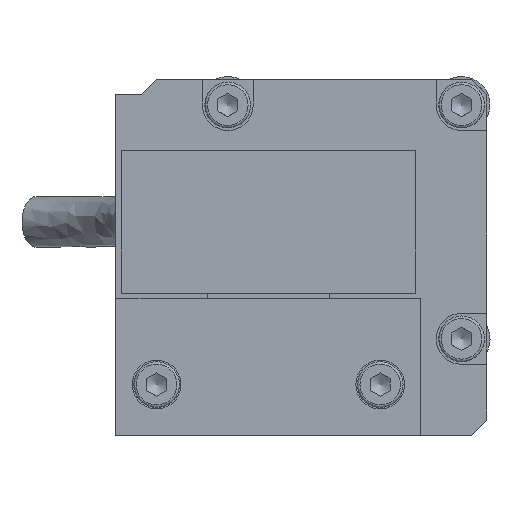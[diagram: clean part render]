
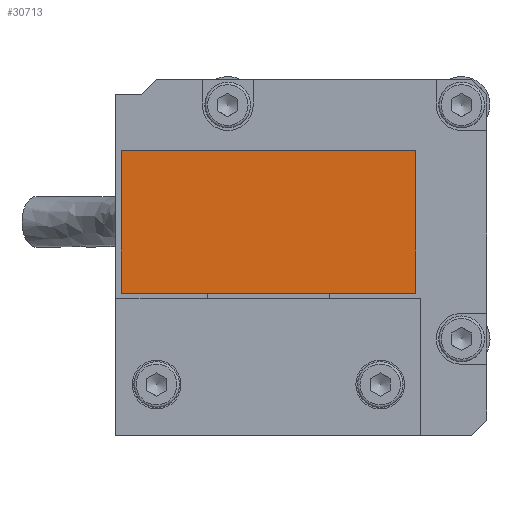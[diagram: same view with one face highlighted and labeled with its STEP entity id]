
A CAD part, left-side view. The second image highlights one B-rep face of the part: STEP entity #30713.
In plain terms, the highlighted planar face has unit normal (-1, 0, 0).
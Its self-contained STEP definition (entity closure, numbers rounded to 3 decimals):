
#1552=PLANE($,#32875);
#4287=FACE_OUTER_BOUND($,#6198,.T.);
#6198=EDGE_LOOP($,(#28215,#28216,#28217,#28218));
#8464=LINE($,#120149,#10674);
#8468=LINE($,#120157,#10678);
#8475=LINE($,#120174,#10685);
#8476=LINE($,#120175,#10686);
#10674=VECTOR($,#39246,29.);
#10678=VECTOR($,#39252,14.);
#10685=VECTOR($,#39267,29.);
#10686=VECTOR($,#39268,14.);
#15029=VERTEX_POINT($,#120145);
#15031=VERTEX_POINT($,#120148);
#15034=VERTEX_POINT($,#120155);
#15040=VERTEX_POINT($,#120173);
#19491=EDGE_CURVE($,#15031,#15029,#8464,.T.);
#19495=EDGE_CURVE($,#15029,#15034,#8468,.T.);
#19504=EDGE_CURVE($,#15034,#15040,#8475,.T.);
#19505=EDGE_CURVE($,#15031,#15040,#8476,.T.);
#28215=ORIENTED_EDGE($,*,*,#19504,.T.);
#28216=ORIENTED_EDGE($,*,*,#19505,.F.);
#28217=ORIENTED_EDGE($,*,*,#19491,.T.);
#28218=ORIENTED_EDGE($,*,*,#19495,.T.);
#30713=ADVANCED_FACE($,(#4287),#1552,.T.);
#32875=AXIS2_PLACEMENT_3D($,#120172,#39265,#39266);
#39246=DIRECTION($,(0.,1.,0.));
#39252=DIRECTION($,(0.,0.,-1.));
#39265=DIRECTION('center_axis',(-1.,0.,0.));
#39266=DIRECTION('ref_axis',(0.,0.,-1.));
#39267=DIRECTION($,(0.,-1.,0.));
#39268=DIRECTION($,(0.,0.,-1.));
#120145=CARTESIAN_POINT('',(6.6,29.5,28.));
#120148=CARTESIAN_POINT('',(6.6,0.5,28.));
#120149=CARTESIAN_POINT($,(6.6,0.5,28.));
#120155=CARTESIAN_POINT('',(6.6,29.5,14.));
#120157=CARTESIAN_POINT($,(6.6,29.5,28.));
#120172=CARTESIAN_POINT('Origin',(6.6,29.5,28.));
#120173=CARTESIAN_POINT('',(6.6,0.5,14.));
#120174=CARTESIAN_POINT($,(6.6,0.5,14.));
#120175=CARTESIAN_POINT($,(6.6,0.5,28.));
